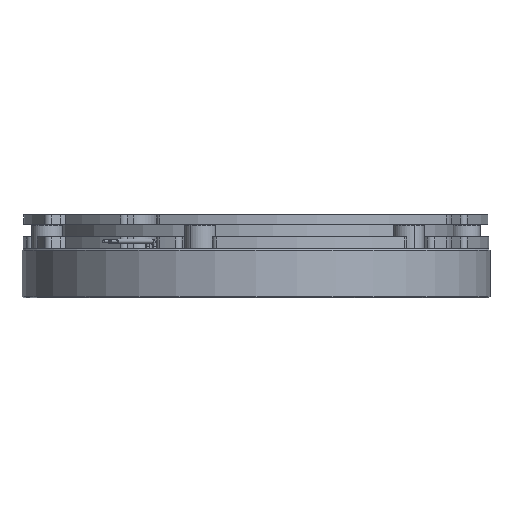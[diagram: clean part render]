
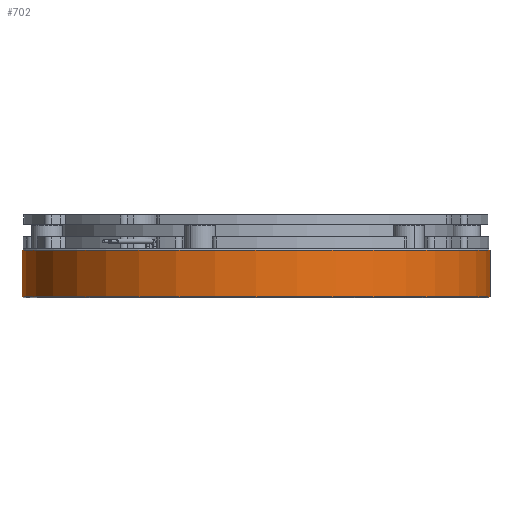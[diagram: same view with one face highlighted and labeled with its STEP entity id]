
A CAD part, front view. The second image highlights one B-rep face of the part: STEP entity #702.
In plain terms, the highlighted cylindrical face has radius 92.5 mm (diameter 185 mm), a partial arc.
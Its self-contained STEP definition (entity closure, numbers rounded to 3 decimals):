
#702 = ADVANCED_FACE ( 'NONE', ( #19300 ), #19292, .T. ) ;
#1505 = DIRECTION ( 'NONE',  ( 0., 0., -1. ) ) ;
#1514 = CARTESIAN_POINT ( 'NONE',  ( 0., 0., 19.4 ) ) ;
#1522 = DIRECTION ( 'NONE',  ( -1., 0., 0. ) ) ;
#2153 = CARTESIAN_POINT ( 'NONE',  ( 0., 0., 0.5 ) ) ;
#2154 = DIRECTION ( 'NONE',  ( 0., 0., 1. ) ) ;
#2155 = DIRECTION ( 'NONE',  ( 1., 0., 0. ) ) ;
#5778 = DIRECTION ( 'NONE',  ( 0., 0., -1. ) ) ;
#5786 = CARTESIAN_POINT ( 'NONE',  ( 92.5, 0., 19.4 ) ) ;
#5826 = CARTESIAN_POINT ( 'NONE',  ( -92.5, 0., 19.4 ) ) ;
#5832 = DIRECTION ( 'NONE',  ( 0., 0., -1. ) ) ;
#5856 = CARTESIAN_POINT ( 'NONE',  ( -92.5, 0., 18.9 ) ) ;
#5900 = CARTESIAN_POINT ( 'NONE',  ( 92.5, 0., 0.5 ) ) ;
#5948 = CARTESIAN_POINT ( 'NONE',  ( -92.5, 0., 0.5 ) ) ;
#6078 = CARTESIAN_POINT ( 'NONE',  ( 92.5, 0., 18.9 ) ) ;
#8399 = EDGE_CURVE ( 'NONE', #15564, #14480, #21025, .T. ) ;
#11514 = AXIS2_PLACEMENT_3D ( 'NONE', #18073, #18074, #18075 ) ;
#12564 = AXIS2_PLACEMENT_3D ( 'NONE', #1514, #1505, #1522 ) ;
#13910 = EDGE_CURVE ( 'NONE', #15564, #14553, #20116, .T. ) ;
#13944 = EDGE_CURVE ( 'NONE', #14480, #14776, #20140, .T. ) ;
#14480 = VERTEX_POINT ( 'NONE', #5856 ) ;
#14553 = VERTEX_POINT ( 'NONE', #5900 ) ;
#14698 = ORIENTED_EDGE ( 'NONE', *, *, #8399, .T. ) ;
#14776 = VERTEX_POINT ( 'NONE', #5948 ) ;
#15354 = ORIENTED_EDGE ( 'NONE', *, *, #13944, .T. ) ;
#15358 = EDGE_LOOP ( 'NONE', ( #15447, #14698, #15354, #15472 ) ) ;
#15447 = ORIENTED_EDGE ( 'NONE', *, *, #13910, .F. ) ;
#15472 = ORIENTED_EDGE ( 'NONE', *, *, #19063, .T. ) ;
#15564 = VERTEX_POINT ( 'NONE', #6078 ) ;
#15727 = AXIS2_PLACEMENT_3D ( 'NONE', #2153, #2154, #2155 ) ;
#18073 = CARTESIAN_POINT ( 'NONE',  ( 0., 0., 18.9 ) ) ;
#18074 = DIRECTION ( 'NONE',  ( 0., 0., -1. ) ) ;
#18075 = DIRECTION ( 'NONE',  ( 1., 0., 0. ) ) ;
#19063 = EDGE_CURVE ( 'NONE', #14776, #14553, #20370, .T. ) ;
#19292 = CYLINDRICAL_SURFACE ( 'NONE', #12564, 92.5 ) ;
#19300 = FACE_OUTER_BOUND ( 'NONE', #15358, .T. ) ;
#20116 = LINE ( 'NONE', #5786, #20118 ) ;
#20118 = VECTOR ( 'NONE', #5778, 1000. ) ;
#20140 = LINE ( 'NONE', #5826, #20144 ) ;
#20144 = VECTOR ( 'NONE', #5832, 1000. ) ;
#20370 = CIRCLE ( 'NONE', #15727, 92.5 ) ;
#21025 = CIRCLE ( 'NONE', #11514, 92.5 ) ;
